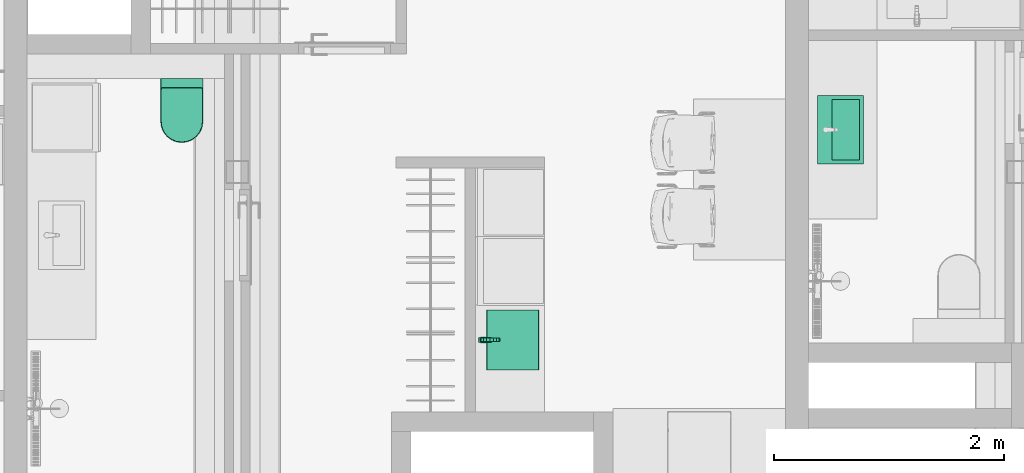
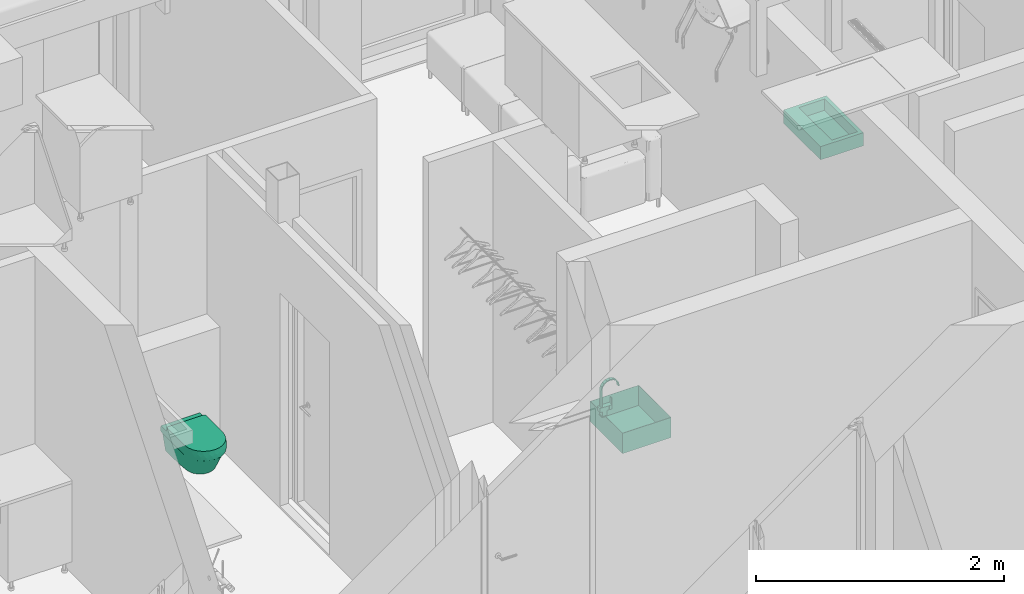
# One storey, part 54 of 125: 4 flow terminals.
"""IFC2X3 building model written with IfcOpenShell, lengths in millimetres."""

from ifc_helpers import new_model, entity, si_unit, converted_unit, direction, frame, origin, place, context, subcontext, project, spatial, faceted_brep, source, transform, mapped, material, type_object, type_shapes, element, save


model = new_model("IFC2X3")

# Units and contexts
model_context = context("Model", 3, precision=0.01, world=origin(), true_north=direction((6.123233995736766e-17, 1.0)))
plan_context = context("Plan", 3, precision=0.01, world=origin(), true_north=direction((6.123233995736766e-17, 1.0)))
body_context = subcontext(model_context, "Body", "Model", "MODEL_VIEW")
ifc_project = project(units=[si_unit("LENGTHUNIT", "METRE", prefix="MILLI"), converted_unit("PLANEANGLEUNIT", "DEGREE", entity("IfcPlaneAngleMeasure", 0.017453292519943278), si_unit("PLANEANGLEUNIT", "RADIAN"), dimensions=[0, 0, 0, 0, 0, 0, 0]), si_unit("AREAUNIT", "SQUARE_METRE")], contexts=[model_context, plan_context])

# Site, building, storey, space
site_placement = place(None, origin())
site = spatial("IfcSite", under=ifc_project, at=site_placement, Name="Default", CompositionType="ELEMENT")
building_placement = place(site_placement, origin())
building = spatial("IfcBuilding", under=site, at=building_placement, CompositionType="ELEMENT")
storey_placement = place(building_placement, frame((0.0, 0.0, 3125.0)))
storey = spatial("IfcBuildingStorey", under=building, at=storey_placement, Name="2K", CompositionType="ELEMENT", Elevation=3125.0)
space_1_placement = place(storey_placement, origin())
space_1 = spatial("IfcSpace", under=storey, at=space_1_placement, Name="2-2.4", CompositionType="ELEMENT", InteriorOrExteriorSpace="INTERNAL")

# Flow terminal
ifc_material = material(Name="<Unnamed>")
distribution_element_type_1 = type_object("IfcDistributionElementType", Name="HR_Plumbing-fixtures_Toilet_Generic_v3:Default", material=ifc_material)
shared_shape_1 = source(origin(), body_context, "Body", "Brep", [
    faceted_brep([(185.0, 375.0, -3940.0), (185.0, 100.0, -3940.0), (184.31851652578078, 94.82361909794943, -3940.0), (182.32050807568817, 90.0, -3940.0), (179.14213562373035, 85.85786437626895, -3940.0), (175.0, 82.67949192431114, -3940.0), (170.17638090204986, 80.68148347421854, -3940.0), (165.0, 80.0, -3940.0), (-165.0, 80.0, -3940.0), (-170.17638090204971, 80.68148347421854, -3940.0), (-175.0, 82.67949192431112, -3940.0), (-179.14213562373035, 85.85786437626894, -3940.0), (-182.32050807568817, 90.0, -3940.0), (-184.31851652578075, 94.82361909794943, -3940.0), (-185.0, 100.0, -3940.0), (-185.0, 375.0, -3940.0), (-178.6962778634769, 422.8815233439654, -3940.0), (-160.21469970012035, 467.49999999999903, -3940.0), (-130.81475451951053, 505.81475451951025, -3940.0), (-92.4999999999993, 535.21469970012, -3940.0), (-47.8815233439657, 553.6962778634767, -3940.0), (0.0, 560.0, -3940.0), (47.88152334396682, 553.6962778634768, -3940.0), (92.50000000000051, 535.2146997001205, -3940.0), (130.81475451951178, 505.8147545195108, -3940.0), (160.2146997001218, 467.4999999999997, -3940.0), (178.69627786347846, 422.8815233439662, -3940.0), (165.0, 85.0, -3905.0), (168.88228567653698, 85.51111260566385, -3905.0), (172.4999999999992, 87.00961894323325, -3905.0), (175.60660171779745, 89.39339828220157, -3905.0), (177.99038105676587, 92.49999999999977, -3905.0), (179.48888739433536, 96.11771432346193, -3905.0), (180.0, 100.0, -3905.0), (180.0, 375.0, -3905.0), (173.86664873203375, 421.5874281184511, -3905.0), (155.88457268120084, 465.0, -3905.0), (127.27922061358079, 502.27922061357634, -3905.0), (90.0, 530.884572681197, -3905.0), (46.58742811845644, 548.8666487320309, -3905.0), (0.0, 555.0, -3905.0), (-46.58742811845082, 548.8666487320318, -3905.0), (-90.0, 530.8845726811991, -3905.0), (-127.27922061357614, 502.2792206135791, -3905.0), (-155.88457268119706, 465.0, -3905.0), (-173.8666487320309, 421.58742811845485, -3905.0), (-180.0, 375.0, -3905.0), (-180.0, 100.0, -3905.0), (-179.4888873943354, 96.11771432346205, -3905.0), (-177.99038105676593, 92.49999999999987, -3905.0), (-175.6066017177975, 89.39339828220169, -3905.0), (-172.49999999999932, 87.00961894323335, -3905.0), (-168.88228567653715, 85.51111260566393, -3905.0), (-165.0, 85.0, -3905.0)], [[[0, 1, 2, 3, 4, 5, 6, 7, 8, 9, 10, 11, 12, 13, 14, 15, 16, 17, 18, 19, 20, 21, 22, 23, 24, 25, 26]], [[27, 28, 29, 30, 31, 32, 33, 34, 35, 36, 37, 38, 39, 40, 41, 42, 43, 44, 45, 46, 47, 48, 49, 50, 51, 52, 53]], [[13, 48, 47, 14]], [[49, 12, 11, 50]], [[48, 13, 12, 49]], [[52, 51, 10, 9]], [[53, 52, 9, 8]], [[10, 51, 50, 11]], [[7, 27, 53, 8]], [[6, 28, 27, 7]], [[29, 5, 4, 30]], [[28, 6, 5, 29]], [[32, 31, 3, 2]], [[33, 32, 2, 1]], [[3, 31, 30, 4]], [[0, 34, 33, 1]], [[34, 0, 26, 35]], [[35, 26, 25, 36]], [[38, 37, 24, 23]], [[24, 37, 36, 25]], [[39, 38, 23, 22]], [[39, 22, 21, 40]], [[20, 41, 40, 21]], [[45, 44, 17, 16]], [[43, 18, 17, 44]], [[45, 16, 15, 46]], [[19, 42, 41, 20]], [[19, 18, 43, 42]], [[47, 46, 15, 14]]]),
    faceted_brep([(158.04963619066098, 466.24999999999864, -4000.0), (176.28146329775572, 422.2344757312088, -4000.0), (182.5000000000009, 375.0, -4000.0), (182.5000000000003, 0.0, -4000.0), (-182.49999999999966, 0.0, -4000.0), (-182.49999999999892, 375.0, -4000.0), (-176.2814632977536, 422.23447573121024, -4000.0), (-158.04963619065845, 466.25, -4000.0), (-129.04698756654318, 504.0469875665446, -4000.0), (-91.2499999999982, 533.0496361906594, -4000.0), (-47.23447573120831, 551.281463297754, -4000.0), (0.0, 557.4999999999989, -4000.0), (47.23447573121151, 551.2814632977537, -4000.0), (91.25000000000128, 533.0496361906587, -4000.0), (129.04698756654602, 504.0469875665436, -4000.0), (-176.28146329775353, 422.23447573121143, -3940.0), (-182.49999999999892, 375.0, -3940.0), (-182.49999999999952, 0.0, -3940.0), (182.50000000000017, 0.0, -3940.0), (182.50000000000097, 375.0, -3940.0), (176.2814632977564, 422.23447573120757, -3940.0), (158.04963619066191, 466.24999999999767, -3940.0), (129.04698756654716, 504.04698756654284, -3940.0), (91.25000000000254, 533.0496361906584, -3940.0), (47.23447573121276, 551.2814632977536, -3940.0), (0.0, 557.4999999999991, -3940.0), (-47.23447573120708, 551.2814632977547, -3940.0), (-91.24999999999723, 533.0496361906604, -3940.0), (-129.04698756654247, 504.0469875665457, -3940.0), (-158.0496361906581, 466.25000000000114, -3940.0), (184.3739186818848, 0.0, -3985.051993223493), (185.0, 0.0, -3970.0), (184.37391868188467, 0.0, -3954.9480067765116), (-184.37391868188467, 0.0, -3954.9480067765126), (-185.0, 0.0, -3970.0), (-184.37391868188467, 0.0, -3985.051993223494), (185.0, 375.0, -3970.0), (184.37391868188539, 375.0, -3954.9480067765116), (184.37391868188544, 375.0, -3985.051993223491), (179.22193525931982, 420.2391964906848, -3962.467496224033), (146.12425609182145, 487.1250848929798, -3987.162723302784), (112.36452390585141, 521.4362980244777, -3982.347722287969), (-24.092382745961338, 557.9998161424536, -3957.652277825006), (-70.79643453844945, 545.9177137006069, -3969.999999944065), (165.88140661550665, 456.6493815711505, -3963.605381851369), (170.61476036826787, 445.67094705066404, -3980.89777177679), (146.7703673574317, 487.6208651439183, -3969.999999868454), (112.4934291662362, 521.6042920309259, -3961.29138681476), (70.79643457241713, 545.9177136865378, -3969.9999999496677), (-170.6147602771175, 445.67094700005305, -3980.8977734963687), (-146.12425609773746, 487.12508488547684, -3987.1627233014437), (70.4847752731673, 545.1653000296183, -3987.16272333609), (24.092382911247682, 557.9998161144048, -3982.3477222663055), (-146.77036734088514, 487.62086516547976, -3969.999999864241), (-165.88140640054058, 456.6493822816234, -3963.605385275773), (24.120021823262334, 558.2097557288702, -3961.2913867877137), (-24.120022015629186, 558.20975569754, -3978.7086133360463), (180.8695297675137, 411.23491834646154, -3983.9362692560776), (-112.36452329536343, 521.4362985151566, -3957.652277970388), (-112.4934298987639, 521.6042914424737, -3978.708613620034), (-70.48477528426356, 545.1653000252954, -3987.1627233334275), (-184.3739188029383, 375.0, -3954.948008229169), (-179.2219343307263, 420.239200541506, -3962.4674984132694), (-185.0, 375.0, -3970.0000029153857), (-184.3739185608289, 375.0, -3985.0519946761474), (-181.40133300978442, 410.0856400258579, -3979.2616608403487)], [[[0, 1, 2, 3, 4, 5, 6, 7, 8, 9, 10, 11, 12, 13, 14]], [[15, 16, 17, 18, 19, 20, 21, 22, 23, 24, 25, 26, 27, 28, 29]], [[4, 3, 30, 31, 32, 18, 17, 33, 34, 35]], [[32, 31, 36, 37]], [[32, 37, 19, 18]], [[30, 3, 2, 38]], [[30, 38, 36, 31]], [[37, 39, 20]], [[40, 14, 41]], [[20, 19, 37]], [[26, 42, 43]], [[44, 45, 46]], [[47, 41, 48]], [[48, 24, 23]], [[7, 49, 50]], [[47, 22, 46]], [[51, 12, 52]], [[21, 46, 22]], [[53, 49, 54]], [[55, 52, 56]], [[48, 52, 55]], [[36, 57, 39]], [[28, 58, 53]], [[11, 10, 56]], [[57, 38, 2]], [[37, 36, 39]], [[59, 58, 43]], [[7, 6, 49]], [[14, 13, 41]], [[12, 51, 13]], [[45, 57, 1]], [[14, 40, 0]], [[45, 1, 0]], [[47, 46, 41]], [[39, 57, 45]], [[24, 48, 55]], [[56, 42, 55]], [[26, 43, 27]], [[39, 45, 44]], [[58, 28, 27]], [[9, 59, 60]], [[27, 43, 58]], [[28, 53, 29]], [[61, 16, 15]], [[11, 56, 52]], [[61, 62, 63]], [[47, 48, 23]], [[41, 51, 48]], [[15, 54, 62]], [[42, 25, 55]], [[62, 61, 15]], [[64, 63, 65]], [[56, 60, 43]], [[55, 25, 24]], [[50, 53, 59]], [[60, 10, 9]], [[47, 23, 22]], [[62, 49, 65]], [[7, 50, 8]], [[49, 62, 54]], [[64, 6, 5]], [[42, 26, 25]], [[58, 59, 53]], [[49, 6, 65]], [[44, 21, 20]], [[11, 52, 12]], [[42, 56, 43]], [[46, 45, 40]], [[59, 9, 8]], [[39, 44, 20]], [[44, 46, 21]], [[54, 29, 53]], [[29, 54, 15]], [[13, 51, 41]], [[48, 51, 52]], [[0, 40, 45]], [[46, 40, 41]], [[10, 60, 56]], [[43, 60, 59]], [[8, 50, 59]], [[53, 50, 49]], [[1, 57, 2]], [[36, 38, 57]], [[62, 65, 63]], [[64, 65, 6]], [[16, 61, 33]], [[16, 33, 17]], [[33, 61, 34]], [[61, 63, 34]], [[64, 5, 4]], [[64, 35, 63]], [[35, 64, 4]], [[63, 35, 34]]]),
    faceted_brep([(85.0, 522.224318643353, -4000.0), (43.99923766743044, 539.2073904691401, -4000.0), (0.0, 545.0, -4000.0), (-43.99923766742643, 539.2073904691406, -4000.0), (-85.0, 522.2243186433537, -4000.0), (-120.20815280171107, 495.2081528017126, -4000.0), (-147.22431864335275, 460.0, -4000.0), (-164.20739046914, 418.9992376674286, -4000.0), (-170.0, 375.0, -4000.0), (-170.0, 0.0, -4000.0), (170.0, 0.0, -4000.0), (170.0, 375.0, -4000.0), (164.2073904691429, 418.99923766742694, -4000.0), (147.224318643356, 460.0, -4000.0), (120.20815280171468, 495.20815280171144, -4000.0), (140.0, 0.0, -4200.0), (-140.0, 0.0, -4200.0), (-140.0, 150.0, -4200.0), (-138.62980634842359, 195.25787346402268, -4200.0), (-137.25961308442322, 240.51573412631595, -4200.0), (-133.15405183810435, 285.6078202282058, -4200.0), (-129.04849039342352, 330.69990850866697, -4200.0), (-121.54313718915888, 361.12229181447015, -4200.0), (-106.97640292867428, 388.86507440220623, -4200.0), (-86.1945818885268, 412.3164634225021, -4200.0), (-60.40505081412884, 430.11398627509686, -4200.0), (-31.106123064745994, 441.2236471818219, -4200.0), (0.0, 445.0, -4200.0), (31.106123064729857, 441.2236471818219, -4200.0), (60.40505081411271, 430.1139862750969, -4200.0), (86.19458188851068, 412.3164634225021, -4200.0), (106.97640292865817, 388.86507440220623, -4200.0), (121.54313718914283, 361.12229181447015, -4200.0), (129.04849039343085, 330.69990850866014, -4200.0), (133.15405231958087, 285.60781494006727, -4200.0), (137.25961308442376, 240.51573412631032, -4200.0), (138.629806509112, 195.25786815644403, -4200.0), (140.0, 150.0, -4200.0), (150.60660238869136, 229.54951791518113, -4129.289317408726), (160.30330119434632, 302.2747589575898, -4064.6446587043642), (155.52145288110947, 359.3375502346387, -4070.710688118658), (143.52703751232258, 346.36235827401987, -4129.289311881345), (155.38792293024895, 359.1931016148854, -4071.362825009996), (136.07910358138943, 407.7451780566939, -4100.000018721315), (144.4628484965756, 378.65444268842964, -4105.413468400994), (88.6637225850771, 465.93257853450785, -4100.000001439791), (116.08235687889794, 439.8543237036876, -4100.000003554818), (-146.76963007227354, 381.58655237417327, -4094.5865394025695), (-136.0791098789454, 407.7451788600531, -4100.000000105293), (-143.66056550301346, 346.5068047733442, -4128.637184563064), (-156.76351819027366, 360.6811785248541, -4064.644658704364), (55.573859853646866, 484.30716171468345, -4100.000000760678), (18.928354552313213, 493.79904274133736, -4099.999999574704), (-55.573860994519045, 484.3071615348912, -4100.00000022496), (-18.928355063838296, 493.79904230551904, -4100.000000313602), (-143.52703638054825, 346.36235704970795, -4129.289317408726), (-88.66372427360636, 465.9325779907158, -4100.000000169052), (-116.08235986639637, 439.8543221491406, -4100.000000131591), (-159.3933967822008, 295.45047586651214, -4070.7106881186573), (-150.6066032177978, 229.54952413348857, -4129.2893118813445)], [[[0, 1, 2, 3, 4, 5, 6, 7, 8, 9, 10, 11, 12, 13, 14]], [[15, 16, 17, 18, 19, 20, 21, 22, 23, 24, 25, 26, 27, 28, 29, 30, 31, 32, 33, 34, 35, 36, 37]], [[10, 15, 37, 38, 39, 11]], [[36, 35, 39, 38, 37]], [[39, 40, 11]], [[35, 40, 39]], [[34, 33, 41, 42, 40, 35]], [[13, 12, 43]], [[32, 44, 33]], [[32, 31, 43]], [[44, 12, 42]], [[45, 30, 29]], [[45, 46, 30]], [[22, 47, 48]], [[30, 46, 31]], [[47, 49, 50, 8]], [[28, 51, 29]], [[46, 43, 31]], [[43, 44, 32]], [[12, 11, 40, 42]], [[51, 45, 29]], [[14, 45, 0]], [[13, 43, 46]], [[28, 27, 52]], [[14, 46, 45]], [[45, 51, 0]], [[0, 51, 1]], [[1, 51, 52]], [[52, 51, 28]], [[52, 2, 1]], [[13, 46, 14]], [[53, 26, 25]], [[2, 54, 3]], [[22, 21, 55, 49]], [[24, 56, 25]], [[48, 23, 22]], [[5, 57, 6]], [[48, 57, 23]], [[24, 23, 57]], [[47, 7, 48]], [[8, 7, 47]], [[26, 54, 27]], [[3, 54, 53]], [[56, 53, 25]], [[2, 52, 54]], [[57, 56, 24]], [[4, 53, 56]], [[22, 49, 47]], [[5, 56, 57]], [[57, 48, 6]], [[4, 56, 5]], [[53, 54, 26]], [[3, 53, 4]], [[6, 48, 7]], [[12, 44, 43]], [[44, 42, 41, 33]], [[54, 52, 27]], [[20, 19, 50, 49, 55, 21]], [[50, 58, 8]], [[19, 58, 50]], [[18, 17, 59, 58, 19]], [[9, 8, 58, 59, 17, 16]], [[9, 16, 15, 10]]]),
])
type_shapes(distribution_element_type_1, [shared_shape_1])
flow_terminal_1_placement = place(space_1_placement, frame((4692.0, 11517.0, 4340.0), z_axis=(0.0, 0.0, 1.0), x_axis=(-1.0, 0.0, 0.0)))
element("IfcFlowTerminal", 1, at=flow_terminal_1_placement, inside=space_1, type_object=distribution_element_type_1, material=ifc_material, Name="HR_Plumbing-fixtures_Toilet_Generic_v3:Default", ObjectType="HR_Plumbing-fixtures_Toilet_Generic_v3:Default", context=body_context, shape_type="MappedRepresentation", body=[
    mapped(shared_shape_1, transform((0.0, 0.0, 0.0), scale=1.0)),
])

# Space
space_2_placement = place(storey_placement, origin())
space_2 = spatial("IfcSpace", under=storey, at=space_2_placement, Name="2-2.2", CompositionType="ELEMENT", InteriorOrExteriorSpace="INTERNAL")

# Flow terminals
distribution_element_type_2 = type_object("IfcDistributionElementType", Name="HR_Plumbing-fixtures_Sink_Generic_Kitchen_v1:Default", material=ifc_material)
shared_shape_2 = source(origin(), body_context, "Body", "Brep", [
    faceted_brep([(260.0, -50.0, -3825.0), (260.0, -500.0, -3825.0), (-260.0, -500.0, -3825.0), (-260.0, -50.0, -3825.0), (262.0, -48.0, -3825.0), (-262.0, -48.0, -3825.0), (-262.0, -502.0, -3825.0), (262.0, -502.0, -3825.0), (262.0, -48.0, -4025.0), (262.0, -502.0, -4025.0), (-262.0, -502.0, -4025.0), (-262.0, -48.0, -4025.0), (260.0, -50.0, -4023.0), (260.0, -500.0, -4023.0), (-260.0, -500.0, -4023.0), (-260.0, -50.0, -4023.0)], [[[0, 1, 2, 3], [4, 5, 6, 7]], [[8, 9, 10, 11]], [[1, 0, 12, 13]], [[2, 1, 13, 14]], [[3, 2, 14, 15]], [[0, 3, 15, 12]], [[5, 4, 8, 11]], [[6, 5, 11, 10]], [[7, 6, 10, 9]], [[4, 7, 9, 8]], [[13, 12, 15, 14]]], outer=[[False, True], [True], [True], [True], [True], [True], [True], [True], [True], [True], [True]]),
])
type_shapes(distribution_element_type_2, [shared_shape_2])
flow_terminal_2_placement = place(space_2_placement, frame((7850.0, 9238.0, 4695.0), z_axis=(0.0, 0.0, 1.0), x_axis=(0.0, -1.0, 0.0)))
element("IfcFlowTerminal", 2, at=flow_terminal_2_placement, inside=space_2, type_object=distribution_element_type_2, material=ifc_material, Name="HR_Plumbing-fixtures_Sink_Generic_Kitchen_v1:Default", ObjectType="HR_Plumbing-fixtures_Sink_Generic_Kitchen_v1:Default", context=body_context, shape_type="MappedRepresentation", body=[
    mapped(shared_shape_2, transform((0.0, 0.0, 0.0), scale=1.0)),
])
distribution_element_type_3 = type_object("IfcDistributionElementType", Name="HR_Plumbing-fixtures_Faucet_Generic_v1:Default", material=ifc_material)
shared_shape_3 = source(origin(), body_context, "Body", "Brep", [
    faceted_brep([(-21.0, 45.0, 93.0), (21.0, 45.0, 93.0), (21.0, 71.0, 93.0), (11.500000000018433, 71.0, 93.0), (11.50000000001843, 68.0, 93.0), (-11.49999999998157, 68.0, 93.0), (-11.499999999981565, 71.0, 93.0), (-21.0, 71.0, 93.0), (-21.0, 45.0, 52.0), (-21.0, 71.0, 52.0), (-11.499999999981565, 71.0, 52.0), (-11.49999999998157, 68.0, 52.0), (11.50000000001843, 68.0, 52.0), (11.500000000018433, 71.0, 52.0), (21.0, 71.0, 52.0), (21.0, 45.0, 52.0), (-11.499999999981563, 74.0, 155.0), (-11.499999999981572, 68.0, 155.0), (11.500000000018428, 68.0, 155.0), (11.500000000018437, 74.0, 155.0), (-11.499999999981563, 74.0, 47.0), (11.500000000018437, 74.0, 47.0), (11.500000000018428, 68.0, 47.0), (-11.499999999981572, 68.0, 47.0)], [[[0, 1, 2, 3, 4, 5, 6, 7]], [[8, 9, 10, 11, 12, 13, 14, 15]], [[1, 0, 8, 15]], [[2, 1, 15, 14]], [[2, 14, 13, 3]], [[0, 7, 9, 8]], [[16, 17, 18, 19]], [[20, 21, 22, 23]], [[17, 16, 20, 23, 11, 10, 6, 5]], [[18, 17, 5, 4]], [[19, 18, 4, 3, 13, 12, 22, 21]], [[16, 19, 21, 20]], [[23, 22, 12, 11]], [[9, 7, 6, 10]]]),
    faceted_brep([(15.0, -28.2999999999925, 93.0), (-15.0, -28.299999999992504, 93.0), (-15.0, -18.299999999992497, 93.0), (15.0, -18.299999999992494, 93.0), (15.0, -28.299999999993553, 262.91444034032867), (-15.0, -28.29999999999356, 262.9144403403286), (-15.0, -18.29999999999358, 262.49427421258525), (15.0, -18.299999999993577, 262.49427421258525), (15.0, -24.100059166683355, 278.21407775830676), (15.0, -19.900118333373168, 293.51371517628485), (-15.0, -19.900118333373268, 293.5137151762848), (-15.0, -24.100059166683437, 278.2140777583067), (-15.0, -0.9291565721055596, 318.9494428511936), (-15.0, -10.414637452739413, 306.2315790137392), (15.0, -10.414637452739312, 306.23157901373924), (15.0, -0.9291565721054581, 318.9494428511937), (15.0, 142.33160759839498, 262.51576689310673), (-15.0, 142.33160759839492, 262.51576689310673), (-15.0, 138.20320612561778, 277.83486312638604), (-15.0, 134.07480465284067, 293.15395935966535), (15.0, 134.07480465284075, 293.15395935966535), (15.0, 138.20320612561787, 277.83486312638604), (-15.0, 26.005040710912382, 335.7250992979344), (-15.0, 12.537942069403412, 327.337271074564), (15.0, 12.537942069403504, 327.337271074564), (15.0, 26.005040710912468, 335.7250992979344), (-15.0, 57.19996222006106, 341.5346177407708), (-15.0, 41.60250146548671, 338.6298585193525), (15.0, 41.60250146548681, 338.62985851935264), (15.0, 57.19996222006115, 341.5346177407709), (-15.0, 88.36739590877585, 335.5793923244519), (-15.0, 72.78367906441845, 338.55700503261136), (15.0, 72.78367906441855, 338.55700503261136), (15.0, 88.36739590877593, 335.5793923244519), (-15.0, 124.64885649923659, 305.9160089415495), (-15.0, 115.22290834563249, 318.67805852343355), (15.0, 115.22290834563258, 318.67805852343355), (15.0, 124.64885649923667, 305.9160089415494), (-15.0, 101.79515212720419, 327.1287254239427), (15.0, 101.79515212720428, 327.1287254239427), (-15.0, 142.3316075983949, 249.0), (-15.0, 132.33160759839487, 249.0), (-15.0, 132.3316075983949, 262.11973222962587), (-15.0, 128.64003790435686, 275.58767371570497), (-15.0, 124.94846821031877, 289.05561520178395), (-15.0, 116.61798076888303, 300.2634746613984), (-15.0, 108.28749332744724, 311.4713341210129), (-15.0, 96.45555148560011, 318.88876541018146), (-15.0, 84.623609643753, 326.30619669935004), (-15.0, 70.90577314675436, 328.9204071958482), (-15.0, 57.187936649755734, 331.53461769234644), (-15.0, 43.457269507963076, 328.98865726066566), (-15.0, 29.726602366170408, 326.4426968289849), (-15.0, 17.85792051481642, 319.08419658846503), (-15.0, 5.989238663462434, 311.72569634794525), (-15.0, -2.3968815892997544, 300.55940234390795), (-15.0, -10.783001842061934, 289.3931083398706), (-15.0, -14.541500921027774, 275.9436912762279), (15.0, -10.783001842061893, 289.3931083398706), (15.0, -14.541500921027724, 275.9436912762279), (15.0, 5.989238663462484, 311.7256963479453), (15.0, -2.396881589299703, 300.55940234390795), (15.0, 116.61798076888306, 300.2634746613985), (15.0, 108.28749332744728, 311.47133412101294), (15.0, 124.94846821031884, 289.05561520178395), (15.0, 29.726602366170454, 326.4426968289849), (15.0, 17.857920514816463, 319.08419658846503), (15.0, 57.187936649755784, 331.53461769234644), (15.0, 43.45726950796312, 328.98865726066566), (15.0, 84.62360964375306, 326.30619669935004), (15.0, 70.90577314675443, 328.9204071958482), (15.0, 127.94606568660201, 278.11949025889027), (15.0, 132.33160759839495, 262.11973222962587), (15.0, 96.45555148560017, 318.88876541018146), (15.0, 132.33160759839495, 249.0), (15.0, 142.33160759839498, 249.0)], [[[0, 1, 2, 3]], [[1, 0, 4, 5]], [[3, 2, 6, 7]], [[4, 8, 9, 10, 11, 5]], [[12, 13, 10, 9, 14, 15]], [[16, 17, 18, 19, 20, 21]], [[22, 23, 12, 15, 24, 25]], [[26, 27, 22, 25, 28, 29]], [[30, 31, 26, 29, 32, 33]], [[34, 35, 36, 37, 20, 19]], [[35, 38, 30, 33, 39, 36]], [[17, 40, 41, 42, 43, 44, 45, 46, 47, 48, 49, 50, 51, 52, 53, 54, 55, 56, 57, 6, 2, 1, 5, 11, 10, 13, 12, 23, 22, 27, 26, 31, 30, 38, 35, 34, 19, 18]], [[6, 57, 56, 58, 59, 7]], [[60, 61, 58, 56, 55, 54]], [[62, 63, 46, 45, 44, 64]], [[65, 66, 60, 54, 53, 52]], [[65, 52, 51, 50, 67, 68]], [[69, 70, 67, 50, 49, 48]], [[71, 64, 44, 43, 42, 72]], [[47, 46, 63, 73, 69, 48]], [[72, 74, 75, 16, 21, 20, 37, 36, 39, 33, 32, 29, 28, 25, 24, 15, 14, 9, 8, 4, 0, 3, 7, 59, 58, 61, 60, 66, 65, 68, 67, 70, 69, 73, 63, 62, 64, 71]], [[41, 40, 75, 74]], [[17, 16, 75, 40]], [[72, 42, 41, 74]]]),
    faceted_brep([(-21.0, -43.0, 93.0), (21.0, -43.0, 93.0), (21.0, 43.0, 93.0), (-21.0, 43.0, 93.0), (-21.0, -43.0, 52.0), (-21.0, 43.0, 52.0), (21.0, 43.0, 52.0), (21.0, -43.0, 52.0)], [[[0, 1, 2, 3]], [[4, 5, 6, 7]], [[1, 0, 4, 7]], [[2, 1, 7, 6]], [[3, 2, 6, 5]], [[0, 3, 5, 4]]]),
    faceted_brep([(21.0, -21.0, 52.0), (21.0, 21.0, 52.0), (-21.0, 21.0, 52.0), (-21.0, -21.0, 52.0), (21.0, -21.0, 7.0), (-21.0, -21.0, 7.0), (-21.0, 21.0, 7.0), (21.0, 21.0, 7.0)], [[[0, 1, 2, 3]], [[4, 5, 6, 7]], [[1, 0, 4, 7]], [[2, 1, 7, 6]], [[3, 2, 6, 5]], [[0, 3, 5, 4]]]),
    faceted_brep([(-25.0, 25.0, 7.0), (-25.0, -25.0, 7.0), (25.0, -25.0, 7.0), (25.0, 25.0, 7.0), (-25.0, 25.0, 0.0), (25.0, 25.0, 0.0), (25.0, -25.0, 0.0), (-25.0, -25.0, 0.0)], [[[0, 1, 2, 3]], [[4, 5, 6, 7]], [[1, 0, 4, 7]], [[2, 1, 7, 6]], [[3, 2, 6, 5]], [[0, 3, 5, 4]]]),
])
type_shapes(distribution_element_type_3, [shared_shape_3])
flow_terminal_3_placement = place(space_2_placement, frame((7320.0, 9238.0, 900.0), z_axis=(0.0, 0.0, 1.0), x_axis=(0.0, -1.0, 0.0)))
element("IfcFlowTerminal", 3, at=flow_terminal_3_placement, inside=space_2, type_object=distribution_element_type_3, material=ifc_material, Name="HR_Plumbing-fixtures_Faucet_Generic_v1:Default", ObjectType="HR_Plumbing-fixtures_Faucet_Generic_v1:Default", context=body_context, shape_type="MappedRepresentation", body=[
    mapped(shared_shape_3, transform((0.0, 0.0, 0.0), scale=1.0)),
])

# Space
space_3_placement = place(storey_placement, origin())
space_3 = spatial("IfcSpace", under=storey, at=space_3_placement, Name="2-3.4", CompositionType="ELEMENT", InteriorOrExteriorSpace="INTERNAL")

# Flow terminal
distribution_element_type_4 = type_object("IfcDistributionElementType", Name="HR_Plumbing-fixtures_Sink_Generic_Bathroom_v1:600 x 400 mm", material=ifc_material)
shared_shape_4 = source(origin(), body_context, "Body", "Brep", [
    faceted_brep([(300.0, 0.0, -3325.0), (-300.0, 0.0, -3325.0), (-300.0, -400.0, -3325.0), (300.0, -400.0, -3325.0), (-265.0, -125.0, -3325.0), (265.0, -125.0, -3325.0), (265.0, -365.0, -3325.0), (-265.0, -365.0, -3325.0), (300.0, 0.0, -3455.0), (300.0, -400.0, -3455.0), (-300.0, -400.0, -3455.0), (-300.0, 0.0, -3455.0), (265.0, -125.0, -3435.0), (-265.0, -125.0, -3435.0), (-265.0, -365.0, -3435.0), (265.0, -365.0, -3435.0)], [[[0, 1, 2, 3], [4, 5, 6, 7]], [[8, 9, 10, 11]], [[1, 0, 8, 11]], [[2, 1, 11, 10]], [[3, 2, 10, 9]], [[0, 3, 9, 8]], [[12, 13, 14, 15]], [[13, 12, 5, 4]], [[14, 13, 4, 7]], [[15, 14, 7, 6]], [[12, 15, 6, 5]]]),
])
type_shapes(distribution_element_type_4, [shared_shape_4])
flow_terminal_4_placement = place(space_3_placement, frame((10230.0, 11069.0, 4925.0), z_axis=(0.0, 0.0, 1.0), x_axis=(0.0, 1.0, 0.0)))
element("IfcFlowTerminal", 4, at=flow_terminal_4_placement, inside=space_3, type_object=distribution_element_type_4, material=ifc_material, Name="HR_Plumbing-fixtures_Sink_Generic_Bathroom_v1:600 x 400 mm", ObjectType="HR_Plumbing-fixtures_Sink_Generic_Bathroom_v1:600 x 400 mm", context=body_context, shape_type="MappedRepresentation", body=[
    mapped(shared_shape_4, transform((0.0, 0.0, 0.0), scale=1.0)),
])

save(model, "model.ifc")
